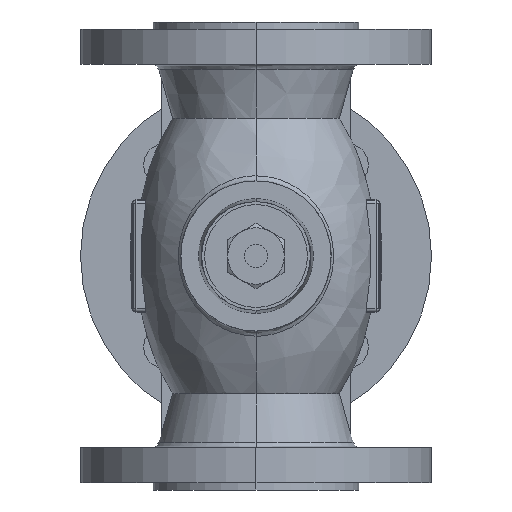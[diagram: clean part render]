
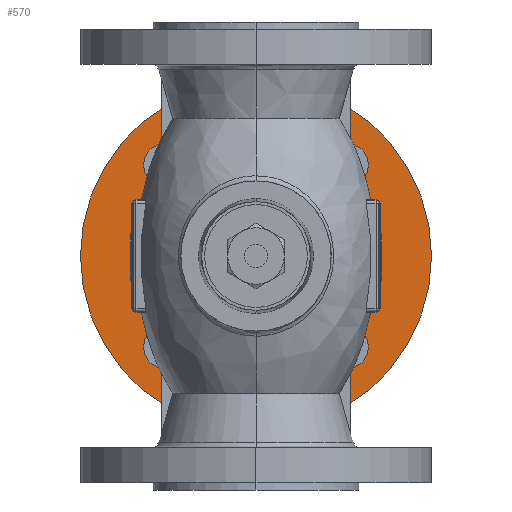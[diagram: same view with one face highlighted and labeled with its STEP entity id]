
A CAD part, front view. The second image highlights one B-rep face of the part: STEP entity #570.
In plain terms, the highlighted planar face has unit normal (0, -1, 0).
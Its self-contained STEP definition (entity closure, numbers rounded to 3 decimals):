
#70=CARTESIAN_POINT('',(0.,56.992,175.));
#71=VERTEX_POINT('',#70);
#80=CARTESIAN_POINT('',(0.,56.992,25.));
#81=VERTEX_POINT('',#80);
#82=CARTESIAN_POINT('',(0.,56.992,100.));
#83=DIRECTION('',(0.0,-1.0,0.0));
#84=DIRECTION('',(0.0,0.0,1.0));
#85=AXIS2_PLACEMENT_3D('',#82,#83,#84);
#86=CIRCLE('',#85,75.0);
#87=EDGE_CURVE('',#81,#71,#86,.T.);
#114=CARTESIAN_POINT('',(-45.255,56.992,145.255));
#115=VERTEX_POINT('',#114);
#131=CARTESIAN_POINT('',(-32.527,56.992,132.527));
#132=VERTEX_POINT('',#131);
#139=CARTESIAN_POINT('',(-38.891,56.992,138.891));
#140=DIRECTION('',(0.,1.0,0.));
#141=DIRECTION('',(-0.707,0.,0.707));
#142=AXIS2_PLACEMENT_3D('',#139,#140,#141);
#143=CIRCLE('',#142,9.0);
#144=EDGE_CURVE('',#115,#132,#143,.T.);
#156=CARTESIAN_POINT('',(45.255,56.992,54.745));
#157=VERTEX_POINT('',#156);
#173=CARTESIAN_POINT('',(32.527,56.992,67.473));
#174=VERTEX_POINT('',#173);
#181=CARTESIAN_POINT('',(38.891,56.992,61.109));
#182=DIRECTION('',(0.,1.0,0.));
#183=DIRECTION('',(0.707,0.,-0.707));
#184=AXIS2_PLACEMENT_3D('',#181,#182,#183);
#185=CIRCLE('',#184,9.0);
#186=EDGE_CURVE('',#157,#174,#185,.T.);
#198=CARTESIAN_POINT('',(45.255,56.992,145.255));
#199=VERTEX_POINT('',#198);
#215=CARTESIAN_POINT('',(32.527,56.992,132.527));
#216=VERTEX_POINT('',#215);
#223=CARTESIAN_POINT('',(38.891,56.992,138.891));
#224=DIRECTION('',(0.,1.0,0.));
#225=DIRECTION('',(0.707,0.,0.707));
#226=AXIS2_PLACEMENT_3D('',#223,#224,#225);
#227=CIRCLE('',#226,9.0);
#228=EDGE_CURVE('',#199,#216,#227,.T.);
#240=CARTESIAN_POINT('',(-45.255,56.992,54.745));
#241=VERTEX_POINT('',#240);
#257=CARTESIAN_POINT('',(-32.527,56.992,67.473));
#258=VERTEX_POINT('',#257);
#265=CARTESIAN_POINT('',(-38.891,56.992,61.109));
#266=DIRECTION('',(0.,1.0,0.));
#267=DIRECTION('',(-0.707,0.,-0.707));
#268=AXIS2_PLACEMENT_3D('',#265,#266,#267);
#269=CIRCLE('',#268,9.0);
#270=EDGE_CURVE('',#241,#258,#269,.T.);
#324=CARTESIAN_POINT('',(0.,56.992,121.55));
#325=VERTEX_POINT('',#324);
#341=CARTESIAN_POINT('',(0.,56.992,78.45));
#342=VERTEX_POINT('',#341);
#349=CARTESIAN_POINT('',(0.,56.992,100.));
#350=DIRECTION('',(0.0,1.0,0.0));
#351=DIRECTION('',(0.0,0.0,1.0));
#352=AXIS2_PLACEMENT_3D('',#349,#350,#351);
#353=CIRCLE('',#352,21.55);
#354=EDGE_CURVE('',#325,#342,#353,.T.);
#365=CARTESIAN_POINT('',(0.,56.992,100.));
#366=DIRECTION('',(0.0,1.0,0.0));
#367=DIRECTION('',(0.0,0.0,1.0));
#368=AXIS2_PLACEMENT_3D('',#365,#366,#367);
#369=CIRCLE('',#368,21.55);
#370=EDGE_CURVE('',#342,#325,#369,.T.);
#427=CARTESIAN_POINT('',(-38.891,56.992,61.109));
#428=DIRECTION('',(0.,1.0,0.));
#429=DIRECTION('',(-0.707,0.,-0.707));
#430=AXIS2_PLACEMENT_3D('',#427,#428,#429);
#431=CIRCLE('',#430,9.0);
#432=EDGE_CURVE('',#258,#241,#431,.T.);
#451=CARTESIAN_POINT('',(38.891,56.992,138.891));
#452=DIRECTION('',(0.,1.0,0.));
#453=DIRECTION('',(0.707,0.,0.707));
#454=AXIS2_PLACEMENT_3D('',#451,#452,#453);
#455=CIRCLE('',#454,9.0);
#456=EDGE_CURVE('',#216,#199,#455,.T.);
#475=CARTESIAN_POINT('',(38.891,56.992,61.109));
#476=DIRECTION('',(0.,1.0,0.));
#477=DIRECTION('',(0.707,0.,-0.707));
#478=AXIS2_PLACEMENT_3D('',#475,#476,#477);
#479=CIRCLE('',#478,9.0);
#480=EDGE_CURVE('',#174,#157,#479,.T.);
#499=CARTESIAN_POINT('',(-38.891,56.992,138.891));
#500=DIRECTION('',(0.,1.0,0.));
#501=DIRECTION('',(-0.707,0.,0.707));
#502=AXIS2_PLACEMENT_3D('',#499,#500,#501);
#503=CIRCLE('',#502,9.0);
#504=EDGE_CURVE('',#132,#115,#503,.T.);
#531=CARTESIAN_POINT('',(0.,56.992,100.));
#532=DIRECTION('',(0.0,-1.0,0.0));
#533=DIRECTION('',(0.0,0.0,1.0));
#534=AXIS2_PLACEMENT_3D('',#531,#532,#533);
#535=CIRCLE('',#534,75.0);
#536=EDGE_CURVE('',#71,#81,#535,.T.);
#541=CARTESIAN_POINT('',(0.,56.992,100.));
#542=DIRECTION('',(0.0,-1.0,0.0));
#543=DIRECTION('',(0.0,0.0,-1.0));
#544=AXIS2_PLACEMENT_3D('',#541,#542,#543);
#545=PLANE('',#544);
#546=ORIENTED_EDGE('',*,*,#536,.T.);
#547=ORIENTED_EDGE('',*,*,#87,.T.);
#548=EDGE_LOOP('',(#546,#547));
#549=FACE_OUTER_BOUND('',#548,.T.);
#550=ORIENTED_EDGE('',*,*,#370,.T.);
#551=ORIENTED_EDGE('',*,*,#354,.T.);
#552=EDGE_LOOP('',(#550,#551));
#553=FACE_BOUND('',#552,.T.);
#554=ORIENTED_EDGE('',*,*,#270,.T.);
#555=ORIENTED_EDGE('',*,*,#432,.T.);
#556=EDGE_LOOP('',(#554,#555));
#557=FACE_BOUND('',#556,.T.);
#558=ORIENTED_EDGE('',*,*,#228,.T.);
#559=ORIENTED_EDGE('',*,*,#456,.T.);
#560=EDGE_LOOP('',(#558,#559));
#561=FACE_BOUND('',#560,.T.);
#562=ORIENTED_EDGE('',*,*,#186,.T.);
#563=ORIENTED_EDGE('',*,*,#480,.T.);
#564=EDGE_LOOP('',(#562,#563));
#565=FACE_BOUND('',#564,.T.);
#566=ORIENTED_EDGE('',*,*,#144,.T.);
#567=ORIENTED_EDGE('',*,*,#504,.T.);
#568=EDGE_LOOP('',(#566,#567));
#569=FACE_BOUND('',#568,.T.);
#570=ADVANCED_FACE('',(#549,#553,#557,#561,#565,#569),#545,.T.);
